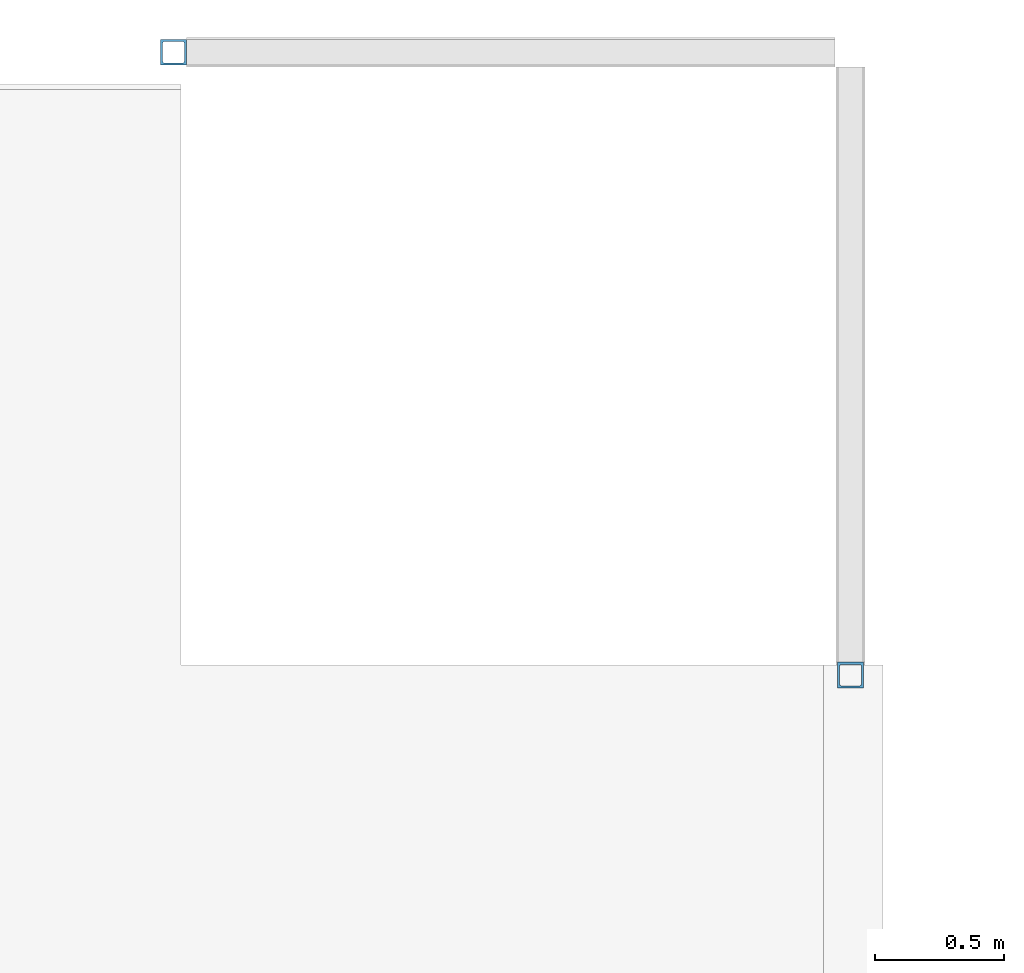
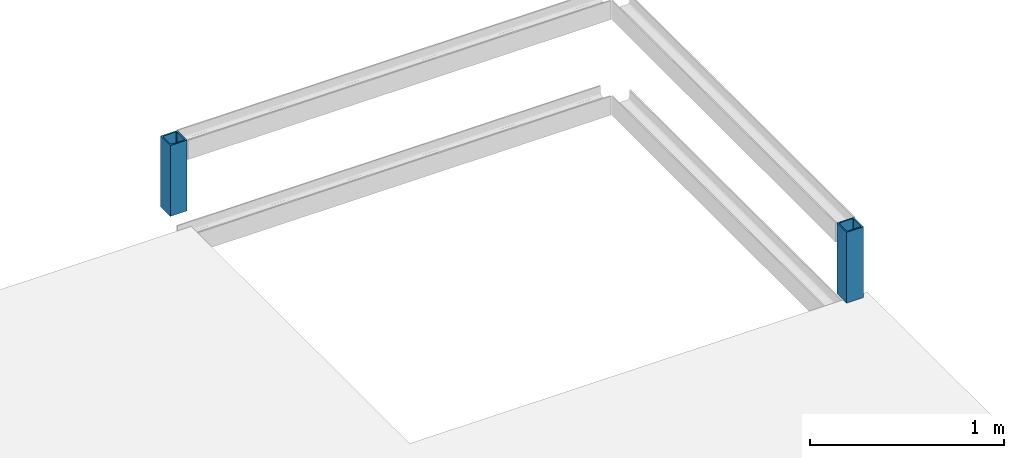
# One storey, part 9 of 36: 2 columns.
"""IFC2X3 building model written with IfcOpenShell, lengths in millimetres."""

from ifc_helpers import new_model, entity, si_unit, converted_unit, derived_unit, direction, frame, frame_2d, origin, place, context, subcontext, project, spatial, polyline, circle_curve, parameter, trimmed, segment, composite_curve, outline, extrude, source, transform, mapped, material, type_object, type_shapes, element, save


model = new_model("IFC2X3")

# Units and contexts
model_context = context("Model", 3, precision=0.01, world=origin(), true_north=direction((6.12303176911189e-17, 1.0)))
body_context = subcontext(model_context, "Body", "Model", "MODEL_VIEW")
ifc_project = project(units=[si_unit("LENGTHUNIT", "METRE", prefix="MILLI"), si_unit("AREAUNIT", "SQUARE_METRE"), si_unit("VOLUMEUNIT", "CUBIC_METRE"), converted_unit("PLANEANGLEUNIT", "DEGREE", entity("IfcRatioMeasure", 0.0174532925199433), si_unit("PLANEANGLEUNIT", "RADIAN"), dimensions=[0, 0, 0, 0, 0, 0, 0]), si_unit("MASSUNIT", "GRAM", prefix="KILO"), derived_unit("MASSDENSITYUNIT", [(si_unit("MASSUNIT", "GRAM", prefix="KILO"), 1), (si_unit("LENGTHUNIT", "METRE"), -3)]), si_unit("TIMEUNIT", "SECOND"), si_unit("FREQUENCYUNIT", "HERTZ"), si_unit("THERMODYNAMICTEMPERATUREUNIT", "DEGREE_CELSIUS"), derived_unit("THERMALTRANSMITTANCEUNIT", [(si_unit("MASSUNIT", "GRAM", prefix="KILO"), 1), (si_unit("THERMODYNAMICTEMPERATUREUNIT", "KELVIN"), -1), (si_unit("TIMEUNIT", "SECOND"), -3)]), derived_unit("VOLUMETRICFLOWRATEUNIT", [(si_unit("LENGTHUNIT", "METRE"), 3), (si_unit("TIMEUNIT", "SECOND"), -1)]), si_unit("ELECTRICCURRENTUNIT", "AMPERE"), si_unit("ELECTRICVOLTAGEUNIT", "VOLT"), si_unit("POWERUNIT", "WATT"), si_unit("FORCEUNIT", "NEWTON", prefix="KILO"), si_unit("ILLUMINANCEUNIT", "LUX"), si_unit("LUMINOUSFLUXUNIT", "LUMEN"), si_unit("LUMINOUSINTENSITYUNIT", "CANDELA"), derived_unit("USERDEFINED", [(si_unit("MASSUNIT", "GRAM", prefix="KILO"), -1), (si_unit("LENGTHUNIT", "METRE"), -2), (si_unit("TIMEUNIT", "SECOND"), 3), (si_unit("LUMINOUSFLUXUNIT", "LUMEN"), 1)]), derived_unit("LINEARVELOCITYUNIT", [(si_unit("LENGTHUNIT", "METRE"), 1), (si_unit("TIMEUNIT", "SECOND"), -1)]), si_unit("PRESSUREUNIT", "PASCAL"), derived_unit("USERDEFINED", [(si_unit("LENGTHUNIT", "METRE"), -2), (si_unit("MASSUNIT", "GRAM", prefix="KILO"), 1), (si_unit("TIMEUNIT", "SECOND"), -2)])], contexts=[model_context])

# Site, building, storey
site_placement = place(None, origin())
site = spatial("IfcSite", under=ifc_project, at=site_placement, Name="Default", CompositionType="ELEMENT")
building_placement = place(site_placement, origin())
building = spatial("IfcBuilding", under=site, at=building_placement, Name="niet gebruiken", CompositionType="ELEMENT")
storey_placement = place(building_placement, frame((0.0, 0.0, 12600.0)))
storey = spatial("IfcBuildingStorey", under=building, at=storey_placement, Name="04 vierde verdieping", CompositionType="ELEMENT", Elevation=12600.0)

# Columns
ifc_material = material(Name="NLRS_h2_staal")
column_type = type_object("IfcColumnType", Name="kolom buisprofiel warmgevormd vierkant SHSH_100x100x8", PredefinedType="COLUMN", material=ifc_material)
shared_shape = source(origin(), body_context, "Body", "SweptSolid", [
    extrude(outline(polyline([(-50.0, -50.0), (50.0, -50.0), (50.0, 50.0), (-50.0, 50.0), (-50.0, -50.0)]), holes=[composite_curve([segment(trimmed(circle_curve(frame_2d((-34.0, -34.0), x_axis=(0.0, 1.0)), 8.0), [parameter(90.0000000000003)], [parameter(180.0)], True, "PARAMETER"), False, "CONTINUOUS"), segment(polyline([(-42.0, -34.0), (-42.0, 34.0)]), True, "CONTINUOUS"), segment(trimmed(circle_curve(frame_2d((-34.0, 34.0), x_axis=(0.0, 1.0)), 8.0), [parameter(360.0)], [parameter(89.9999999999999)], True, "PARAMETER"), False, "CONTINUOUS"), segment(polyline([(-34.0, 42.0), (34.0, 42.0)]), True, "CONTINUOUS"), segment(trimmed(circle_curve(frame_2d((34.0, 34.0), x_axis=(0.0, 1.0)), 8.0), [parameter(270.0)], [parameter(360.0)], True, "PARAMETER"), False, "CONTINUOUS"), segment(polyline([(42.0, 34.0), (42.0, -34.0)]), True, "CONTINUOUS"), segment(trimmed(circle_curve(frame_2d((34.0, -34.0), x_axis=(0.0, 1.0)), 8.0), [parameter(180.0)], [parameter(270.0)], True, "PARAMETER"), False, "CONTINUOUS"), segment(polyline([(34.0, -42.0), (-34.0, -42.0)]), True, "CONTINUOUS")], self_intersect=False)]), frame((0.0, 0.0, 12555.0), z_axis=(0.0, 0.0, 1.0), x_axis=(0.0, -1.0, 0.0)), (0.0, 0.0, 1.0), 445.000000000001),
])
type_shapes(column_type, [shared_shape])
for number, where, z_axis, x_axis, name in (
    (1, (75575.0, 50716.0007019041, -12600.0), (0.0, 0.0, 1.0), (-1.0, 0.0, 0.0), "NLRS_28.11_SCO_TLB_stalen kolom buisprofiel warmgevormd vierkant_gen:kolom buisprofiel warmgevormd vierkant SHSH_100x100x8"),
    (2, (72950.0, 53131.0, -12600.0), (0.0, 0.0, 1.0), (-1.0, 0.0, 0.0), "NLRS_28.11_SCO_TLB_stalen kolom buisprofiel warmgevormd vierkant_gen:kolom buisprofiel warmgevormd vierkant SHSH_100x100x8"),
):
    element("IfcColumn", number, at=place(storey_placement, frame(where, z_axis=z_axis, x_axis=x_axis)), inside=storey, type_object=column_type, material=ifc_material, Name=name, ObjectType="kolom buisprofiel warmgevormd vierkant SHSH_100x100x8", context=body_context, shape_type="MappedRepresentation", body=[
        mapped(shared_shape, transform((0.0, 0.0, 0.0), scale=1.0)),
    ])

save(model, "model.ifc")
